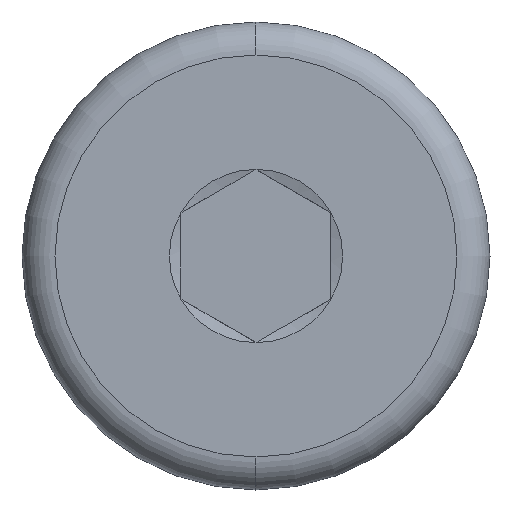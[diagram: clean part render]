
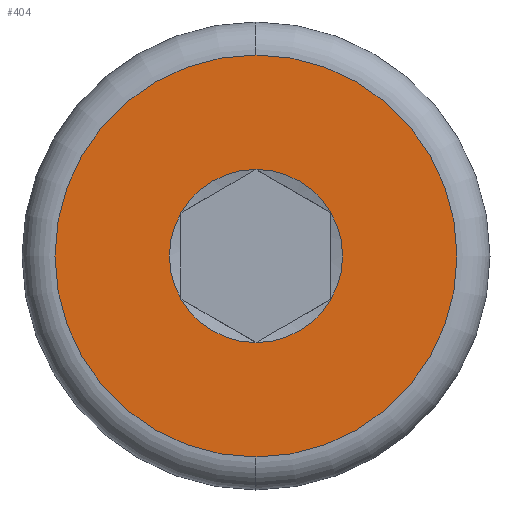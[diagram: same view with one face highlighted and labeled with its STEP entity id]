
A CAD part, left-side view. The second image highlights one B-rep face of the part: STEP entity #404.
In plain terms, the highlighted planar face has unit normal (-1, 0, 0).
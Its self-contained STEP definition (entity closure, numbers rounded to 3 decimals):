
#9 = EDGE_CURVE ( 'NONE', #387, #236, #439, .T. ) ;
#13 = CARTESIAN_POINT ( 'NONE',  ( 0., 0., 0. ) ) ;
#22 = ORIENTED_EDGE ( 'NONE', *, *, #530, .T. ) ;
#24 = CARTESIAN_POINT ( 'NONE',  ( 0., 0., 2.887 ) ) ;
#26 = AXIS2_PLACEMENT_3D ( 'NONE', #673, #618, #578 ) ;
#58 = CARTESIAN_POINT ( 'NONE',  ( 0., 0., 0. ) ) ;
#74 = EDGE_CURVE ( 'NONE', #552, #159, #401, .T. ) ;
#81 = EDGE_CURVE ( 'NONE', #390, #548, #220, .T. ) ;
#84 = PLANE ( 'NONE',  #319 ) ;
#87 = DIRECTION ( 'NONE',  ( -1., 0., 0. ) ) ;
#98 = DIRECTION ( 'NONE',  ( 1., 0., 0. ) ) ;
#103 = CARTESIAN_POINT ( 'NONE',  ( 0., 0., 0. ) ) ;
#122 = CARTESIAN_POINT ( 'NONE',  ( 0., 0., 6.7 ) ) ;
#137 = EDGE_LOOP ( 'NONE', ( #509, #22, #665, #277, #282, #445 ) ) ;
#159 = VERTEX_POINT ( 'NONE', #672 ) ;
#174 = CIRCLE ( 'NONE', #653, 6.7 ) ;
#178 = DIRECTION ( 'NONE',  ( 0., 0., 1. ) ) ;
#185 = AXIS2_PLACEMENT_3D ( 'NONE', #568, #614, #393 ) ;
#188 = ORIENTED_EDGE ( 'NONE', *, *, #491, .F. ) ;
#189 = ORIENTED_EDGE ( 'NONE', *, *, #9, .F. ) ;
#190 = FACE_BOUND ( 'NONE', #137, .T. ) ;
#198 = DIRECTION ( 'NONE',  ( 1., 0., 0. ) ) ;
#209 = DIRECTION ( 'NONE',  ( 0., 0., -1. ) ) ;
#215 = AXIS2_PLACEMENT_3D ( 'NONE', #103, #198, #621 ) ;
#220 = CIRCLE ( 'NONE', #281, 2.887 ) ;
#228 = EDGE_CURVE ( 'NONE', #571, #506, #503, .T. ) ;
#236 = VERTEX_POINT ( 'NONE', #122 ) ;
#243 = DIRECTION ( 'NONE',  ( 1., 0., 0. ) ) ;
#275 = DIRECTION ( 'NONE',  ( 1., 0., 0. ) ) ;
#276 = AXIS2_PLACEMENT_3D ( 'NONE', #352, #98, #307 ) ;
#277 = ORIENTED_EDGE ( 'NONE', *, *, #592, .T. ) ;
#281 = AXIS2_PLACEMENT_3D ( 'NONE', #533, #312, #209 ) ;
#282 = ORIENTED_EDGE ( 'NONE', *, *, #81, .T. ) ;
#285 = EDGE_LOOP ( 'NONE', ( #189, #188 ) ) ;
#286 = DIRECTION ( 'NONE',  ( 0., 0., -1. ) ) ;
#289 = CARTESIAN_POINT ( 'NONE',  ( 0., 0., -6.7 ) ) ;
#307 = DIRECTION ( 'NONE',  ( 0., 0., -1. ) ) ;
#312 = DIRECTION ( 'NONE',  ( 1., 0., 0. ) ) ;
#314 = DIRECTION ( 'NONE',  ( 0., 0., -1. ) ) ;
#319 = AXIS2_PLACEMENT_3D ( 'NONE', #403, #87, #178 ) ;
#320 = DIRECTION ( 'NONE',  ( 0., 0., -1. ) ) ;
#345 = CARTESIAN_POINT ( 'NONE',  ( 0., 0., 0. ) ) ;
#352 = CARTESIAN_POINT ( 'NONE',  ( 0., 0., 0. ) ) ;
#356 = CIRCLE ( 'NONE', #26, 2.887 ) ;
#387 = VERTEX_POINT ( 'NONE', #289 ) ;
#390 = VERTEX_POINT ( 'NONE', #395 ) ;
#393 = DIRECTION ( 'NONE',  ( 0., 0., -1. ) ) ;
#395 = CARTESIAN_POINT ( 'NONE',  ( 0., 0., -2.887 ) ) ;
#398 = CIRCLE ( 'NONE', #276, 2.887 ) ;
#399 = FACE_OUTER_BOUND ( 'NONE', #285, .T. ) ;
#401 = CIRCLE ( 'NONE', #581, 2.887 ) ;
#403 = CARTESIAN_POINT ( 'NONE',  ( 0., 0., 0. ) ) ;
#404 = ADVANCED_FACE ( 'NONE', ( #190, #399 ), #84, .T. ) ;
#432 = CIRCLE ( 'NONE', #215, 2.887 ) ;
#439 = CIRCLE ( 'NONE', #185, 6.7 ) ;
#445 = ORIENTED_EDGE ( 'NONE', *, *, #620, .T. ) ;
#469 = DIRECTION ( 'NONE',  ( 1., 0., 0. ) ) ;
#470 = CARTESIAN_POINT ( 'NONE',  ( 0., -2.5, 1.443 ) ) ;
#491 = EDGE_CURVE ( 'NONE', #236, #387, #174, .T. ) ;
#503 = CIRCLE ( 'NONE', #590, 2.887 ) ;
#506 = VERTEX_POINT ( 'NONE', #24 ) ;
#509 = ORIENTED_EDGE ( 'NONE', *, *, #228, .T. ) ;
#528 = CARTESIAN_POINT ( 'NONE',  ( 0., 2.5, -1.443 ) ) ;
#530 = EDGE_CURVE ( 'NONE', #506, #552, #356, .T. ) ;
#533 = CARTESIAN_POINT ( 'NONE',  ( 0., 0., 0. ) ) ;
#548 = VERTEX_POINT ( 'NONE', #528 ) ;
#552 = VERTEX_POINT ( 'NONE', #470 ) ;
#568 = CARTESIAN_POINT ( 'NONE',  ( 0., 0., 0. ) ) ;
#571 = VERTEX_POINT ( 'NONE', #572 ) ;
#572 = CARTESIAN_POINT ( 'NONE',  ( 0., 2.5, 1.443 ) ) ;
#578 = DIRECTION ( 'NONE',  ( 0., 0., -1. ) ) ;
#581 = AXIS2_PLACEMENT_3D ( 'NONE', #58, #469, #314 ) ;
#590 = AXIS2_PLACEMENT_3D ( 'NONE', #13, #275, #320 ) ;
#592 = EDGE_CURVE ( 'NONE', #159, #390, #398, .T. ) ;
#614 = DIRECTION ( 'NONE',  ( 1., 0., 0. ) ) ;
#618 = DIRECTION ( 'NONE',  ( 1., 0., 0. ) ) ;
#620 = EDGE_CURVE ( 'NONE', #548, #571, #432, .T. ) ;
#621 = DIRECTION ( 'NONE',  ( 0., 0., -1. ) ) ;
#653 = AXIS2_PLACEMENT_3D ( 'NONE', #345, #243, #286 ) ;
#665 = ORIENTED_EDGE ( 'NONE', *, *, #74, .T. ) ;
#672 = CARTESIAN_POINT ( 'NONE',  ( 0., -2.5, -1.443 ) ) ;
#673 = CARTESIAN_POINT ( 'NONE',  ( 0., 0., 0. ) ) ;
